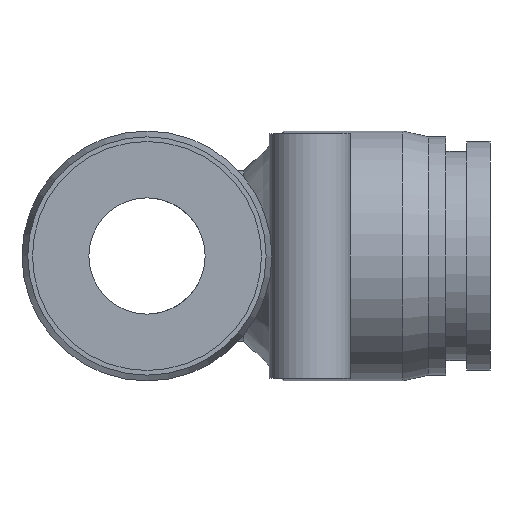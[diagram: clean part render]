
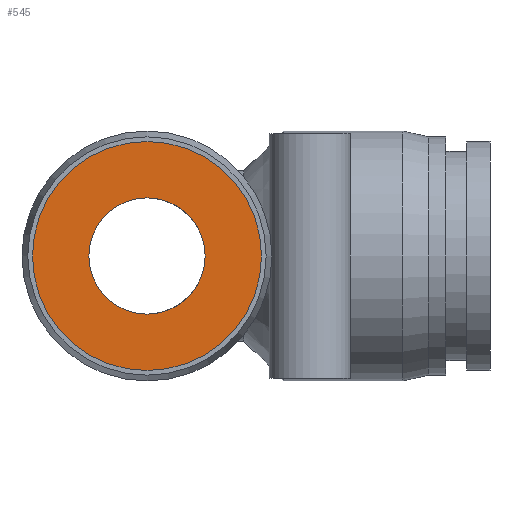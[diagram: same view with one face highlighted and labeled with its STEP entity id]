
A CAD part, left-side view. The second image highlights one B-rep face of the part: STEP entity #545.
In plain terms, the highlighted planar face has unit normal (-1, 0, 0).
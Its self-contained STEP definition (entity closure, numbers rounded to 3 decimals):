
#125=CARTESIAN_POINT('',(-29.5,-5.,0.));
#126=VERTEX_POINT('',#125);
#127=CARTESIAN_POINT('',(-29.5,0.0,0.0));
#128=DIRECTION('',(1.0,0.0,0.0));
#129=DIRECTION('',(0.0,1.0,0.0));
#130=AXIS2_PLACEMENT_3D('',#127,#128,#129);
#131=CIRCLE('',#130,5.);
#132=EDGE_CURVE('',#126,#126,#131,.T.);
#526=CARTESIAN_POINT('',(-29.5,4.925,0.0));
#527=DIRECTION('',(-1.0,0.0,0.0));
#528=DIRECTION('',(0.0,0.0,1.0));
#529=AXIS2_PLACEMENT_3D('',#526,#527,#528);
#530=PLANE('',#529);
#531=CARTESIAN_POINT('',(-29.5,9.85,0.0));
#532=VERTEX_POINT('',#531);
#533=CARTESIAN_POINT('',(-29.5,0.0,0.0));
#534=DIRECTION('',(1.0,0.0,0.0));
#535=DIRECTION('',(0.0,1.0,0.0));
#536=AXIS2_PLACEMENT_3D('',#533,#534,#535);
#537=CIRCLE('',#536,9.85);
#538=EDGE_CURVE('',#532,#532,#537,.T.);
#539=ORIENTED_EDGE('',*,*,#538,.F.);
#540=EDGE_LOOP('',(#539));
#541=FACE_OUTER_BOUND('',#540,.T.);
#542=ORIENTED_EDGE('',*,*,#132,.T.);
#543=EDGE_LOOP('',(#542));
#544=FACE_BOUND('',#543,.T.);
#545=ADVANCED_FACE('',(#541,#544),#530,.T.);
